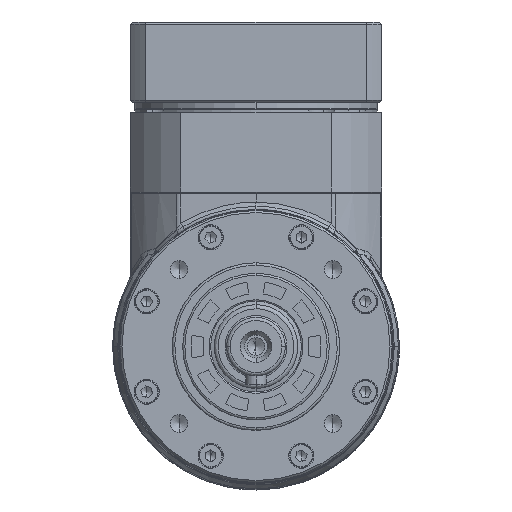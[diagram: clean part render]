
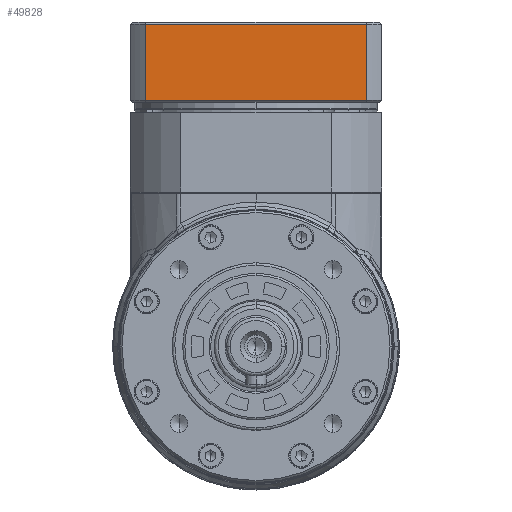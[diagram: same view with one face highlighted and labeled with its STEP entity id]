
A CAD part, left-side view. The second image highlights one B-rep face of the part: STEP entity #49828.
In plain terms, the highlighted planar face has unit normal (-1, 0, 0).
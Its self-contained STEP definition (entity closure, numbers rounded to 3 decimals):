
#658 = VERTEX_POINT ( 'NONE', #32921 ) ;
#2608 = VERTEX_POINT ( 'NONE', #22000 ) ;
#3711 = CARTESIAN_POINT ( 'NONE',  ( -66.465, -0.462, 54.331 ) ) ;
#7212 = DIRECTION ( 'NONE',  ( 0., -1., 0. ) ) ;
#7379 = LINE ( 'NONE', #63311, #53438 ) ;
#7457 = CARTESIAN_POINT ( 'NONE',  ( -66.465, -0.462, 129.831 ) ) ;
#8600 = DIRECTION ( 'NONE',  ( 0., 0., 1. ) ) ;
#11706 = ORIENTED_EDGE ( 'NONE', *, *, #64753, .T. ) ;
#12237 = LINE ( 'NONE', #53466, #43123 ) ;
#14125 = VECTOR ( 'NONE', #8600, 1000. ) ;
#16905 = EDGE_CURVE ( 'NONE', #19933, #658, #65187, .T. ) ;
#18803 = DIRECTION ( 'NONE',  ( 0., 0., 1. ) ) ;
#19052 = EDGE_LOOP ( 'NONE', ( #61678, #57336, #11706, #35658 ) ) ;
#19330 = CARTESIAN_POINT ( 'NONE',  ( -66.465, -53.377, 54.331 ) ) ;
#19933 = VERTEX_POINT ( 'NONE', #62715 ) ;
#21318 = LINE ( 'NONE', #7457, #63465 ) ;
#22000 = CARTESIAN_POINT ( 'NONE',  ( -66.465, -0.462, 129.831 ) ) ;
#23481 = PLANE ( 'NONE',  #44475 ) ;
#25786 = CARTESIAN_POINT ( 'NONE',  ( -66.465, -0.462, 111.631 ) ) ;
#32921 = CARTESIAN_POINT ( 'NONE',  ( -66.465, -53.377, 129.831 ) ) ;
#35658 = ORIENTED_EDGE ( 'NONE', *, *, #16905, .T. ) ;
#38602 = EDGE_CURVE ( 'NONE', #58218, #2608, #7379, .T. ) ;
#43123 = VECTOR ( 'NONE', #7212, 1000. ) ;
#43289 = DIRECTION ( 'NONE',  ( 0., 1., 0. ) ) ;
#44475 = AXIS2_PLACEMENT_3D ( 'NONE', #3711, #64662, #18803 ) ;
#48552 = EDGE_CURVE ( 'NONE', #658, #2608, #21318, .T. ) ;
#49634 = FACE_OUTER_BOUND ( 'NONE', #19052, .T. ) ;
#49828 = ADVANCED_FACE ( 'NONE', ( #49634 ), #23481, .T. ) ;
#52952 = DIRECTION ( 'NONE',  ( 0., 0., 1. ) ) ;
#53438 = VECTOR ( 'NONE', #52952, 1000. ) ;
#53466 = CARTESIAN_POINT ( 'NONE',  ( -66.465, -26.92, 111.631 ) ) ;
#57336 = ORIENTED_EDGE ( 'NONE', *, *, #38602, .F. ) ;
#58218 = VERTEX_POINT ( 'NONE', #25786 ) ;
#61678 = ORIENTED_EDGE ( 'NONE', *, *, #48552, .T. ) ;
#62715 = CARTESIAN_POINT ( 'NONE',  ( -66.465, -53.377, 111.631 ) ) ;
#63311 = CARTESIAN_POINT ( 'NONE',  ( -66.465, -0.462, 105.331 ) ) ;
#63465 = VECTOR ( 'NONE', #43289, 1000. ) ;
#64662 = DIRECTION ( 'NONE',  ( -1., 0., 0. ) ) ;
#64753 = EDGE_CURVE ( 'NONE', #58218, #19933, #12237, .T. ) ;
#65187 = LINE ( 'NONE', #19330, #14125 ) ;
